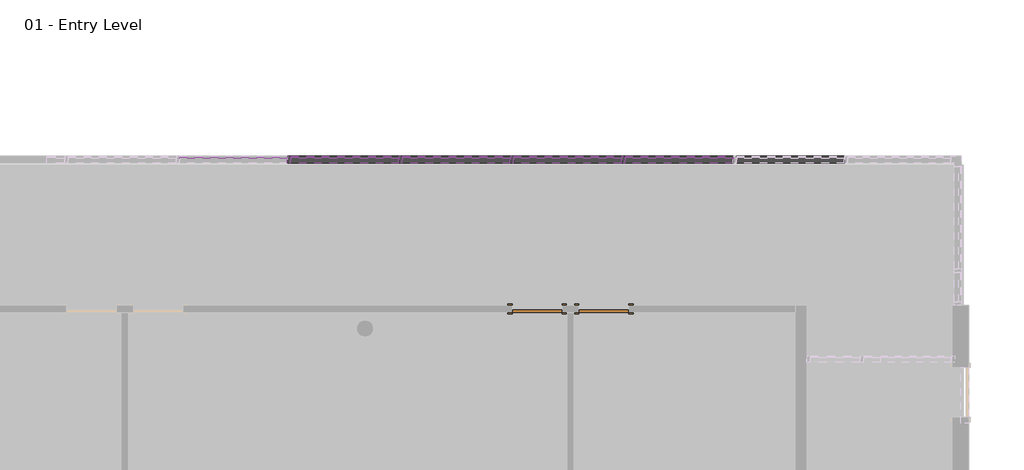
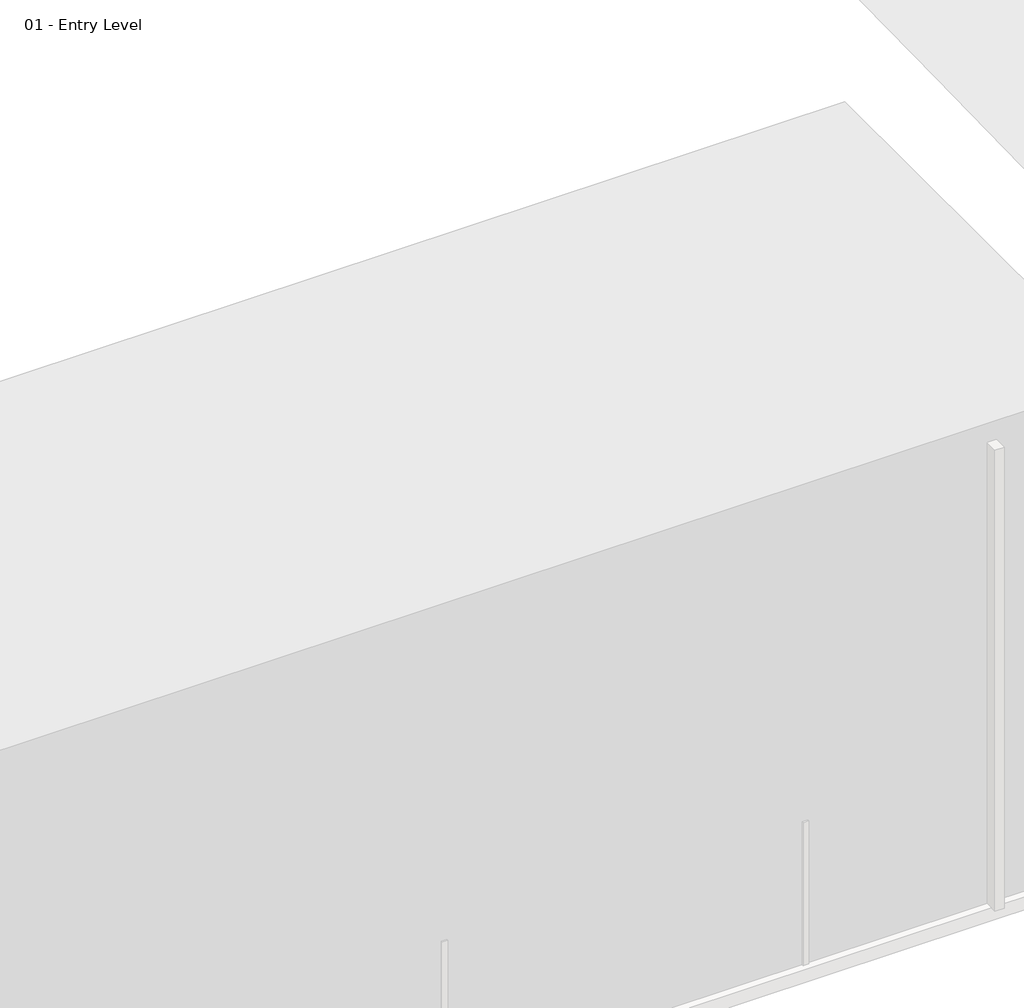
# One storey, part 21 of 34: 85 members, 45 plates, 2 doors.
"""IFC4 building model written with IfcOpenShell, lengths in millimetres."""

from ifc_helpers import new_model, si_unit, origin, place, context, project, spatial, transform, mapped, element, save
from components import door_a1797ceb, door_a3eb833a, member_2b49869a, member_391b434c, member_9e90ae50, system_panel_glazed_1b9d6098, system_panel_glazed_70da479d

model = new_model("IFC4")

# Units and contexts
model_context = context("Model", 3, world=origin())
ifc_project = project(units=[si_unit("LENGTHUNIT", "METRE", prefix="MILLI")], contexts=[model_context])

# Site, building, storey
site = spatial("IfcSite", under=ifc_project)
building = spatial("IfcBuilding", under=site)
storey = spatial("IfcBuildingStorey", under=building, Name="01 - Entry Level", Elevation=0.0)

# Doors
placement = place(None, origin())
door_shape = door_a1797ceb(model_context)
element("IfcDoor", 1, ObjectType="Single-Flush : 36\" x 84\"", at=placement, inside=storey, context=model_context, shape_type="MappedRepresentation", body=[
    mapped(door_shape, transform((59652.8207476, 8270.8, 0.0), x_axis=(-1.0, 0.0, 0.0), y_axis=(0.0, -1.0, 0.0), z_axis=(0.0, 0.0, 1.0))),
])
door_2_shape = door_a3eb833a(model_context)
element("IfcDoor", 2, ObjectType="Single-Flush : 36\" x 84\"", at=placement, inside=storey, context=model_context, shape_type="MappedRepresentation", body=[
    mapped(door_2_shape, transform((58433.6207476, 8270.8, 0.0), x_axis=(1.0, 0.0, 0.0), y_axis=(0.0, 1.0, 0.0), z_axis=(0.0, 0.0, 1.0))),
])

# Members
member_shape = member_2b49869a(model_context)
element("IfcMember", 3, ObjectType="Rectangular Mullion : 2.5\" x 5\" rectangular", at=placement, inside=storey, context=model_context, shape_type="MappedRepresentation", body=[
    mapped(member_shape, transform((60008.4207476, 11001.3, 9753.6), x_axis=(-1.0, 0.0, 0.0), y_axis=(0.0, 1.0, 0.0), z_axis=(0.0, 0.0, -1.0))),
])
element("IfcMember", 4, ObjectType="Rectangular Mullion : 2.5\" x 5\" rectangular", at=placement, inside=storey, context=model_context, shape_type="MappedRepresentation", body=[
    mapped(member_shape, transform((57976.4207476, 11001.3, 9753.6), x_axis=(-1.0, 0.0, 0.0), y_axis=(0.0, 1.0, 0.0), z_axis=(0.0, 0.0, -1.0))),
])
element("IfcMember", 5, ObjectType="Rectangular Mullion : 2.5\" x 5\" rectangular", at=placement, inside=storey, context=model_context, shape_type="MappedRepresentation", body=[
    mapped(member_shape, transform((55944.4207476, 11001.3, 9753.6), x_axis=(-1.0, 0.0, 0.0), y_axis=(0.0, 1.0, 0.0), z_axis=(0.0, 0.0, -1.0))),
])
element("IfcMember", 6, ObjectType="Rectangular Mullion : 2.5\" x 5\" rectangular", at=placement, inside=storey, context=model_context, shape_type="MappedRepresentation", body=[
    mapped(member_shape, transform((53912.4207476, 11001.3, 9753.6), x_axis=(-1.0, 0.0, 0.0), y_axis=(0.0, 1.0, 0.0), z_axis=(0.0, 0.0, -1.0))),
])
member_2_shape = member_391b434c(model_context)
element("IfcMember", 7, ObjectType="Rectangular Mullion : 2.5\" x 5\" rectangular", at=placement, inside=storey, context=model_context, shape_type="MappedRepresentation", body=[
    mapped(member_2_shape, transform((62072.1707476, 11001.3, 10972.8), x_axis=(0.0, 0.0, 1.0), y_axis=(0.0, 1.0, 0.0), z_axis=(-1.0, 0.0, 0.0))),
])
element("IfcMember", 8, ObjectType="Rectangular Mullion : 2.5\" x 5\" rectangular", at=placement, inside=storey, context=model_context, shape_type="MappedRepresentation", body=[
    mapped(member_2_shape, transform((60040.1707476, 11001.3, 10972.8), x_axis=(0.0, 0.0, 1.0), y_axis=(0.0, 1.0, 0.0), z_axis=(-1.0, 0.0, 0.0))),
])
element("IfcMember", 9, ObjectType="Rectangular Mullion : 2.5\" x 5\" rectangular", at=placement, inside=storey, context=model_context, shape_type="MappedRepresentation", body=[
    mapped(member_2_shape, transform((58008.1707476, 11001.3, 10972.8), x_axis=(0.0, 0.0, 1.0), y_axis=(0.0, 1.0, 0.0), z_axis=(-1.0, 0.0, 0.0))),
])
element("IfcMember", 10, ObjectType="Rectangular Mullion : 2.5\" x 5\" rectangular", at=placement, inside=storey, context=model_context, shape_type="MappedRepresentation", body=[
    mapped(member_2_shape, transform((55976.1707476, 11001.3, 10972.8), x_axis=(0.0, 0.0, 1.0), y_axis=(0.0, 1.0, 0.0), z_axis=(-1.0, 0.0, 0.0))),
])
element("IfcMember", 11, ObjectType="Rectangular Mullion : 2.5\" x 5\" rectangular", at=placement, inside=storey, context=model_context, shape_type="MappedRepresentation", body=[
    mapped(member_2_shape, transform((53944.1707476, 11001.3, 10972.8), x_axis=(0.0, 0.0, 1.0), y_axis=(0.0, 1.0, 0.0), z_axis=(-1.0, 0.0, 0.0))),
])
element("IfcMember", 12, ObjectType="Rectangular Mullion : 2.5\" x 5\" rectangular", at=placement, inside=storey, context=model_context, shape_type="MappedRepresentation", body=[
    mapped(member_2_shape, transform((62008.6707476, 11001.3, 0.0), x_axis=(0.0, 0.0, -1.0), y_axis=(0.0, 1.0, 0.0), z_axis=(1.0, 0.0, 0.0))),
])
element("IfcMember", 13, ObjectType="Rectangular Mullion : 2.5\" x 5\" rectangular", at=placement, inside=storey, context=model_context, shape_type="MappedRepresentation", body=[
    mapped(member_2_shape, transform((59976.6707476, 11001.3, 0.0), x_axis=(0.0, 0.0, -1.0), y_axis=(0.0, 1.0, 0.0), z_axis=(1.0, 0.0, 0.0))),
])
element("IfcMember", 14, ObjectType="Rectangular Mullion : 2.5\" x 5\" rectangular", at=placement, inside=storey, context=model_context, shape_type="MappedRepresentation", body=[
    mapped(member_2_shape, transform((57944.6707476, 11001.3, 0.0), x_axis=(0.0, 0.0, -1.0), y_axis=(0.0, 1.0, 0.0), z_axis=(1.0, 0.0, 0.0))),
])
element("IfcMember", 15, ObjectType="Rectangular Mullion : 2.5\" x 5\" rectangular", at=placement, inside=storey, context=model_context, shape_type="MappedRepresentation", body=[
    mapped(member_2_shape, transform((55912.6707476, 11001.3, 0.0), x_axis=(0.0, 0.0, -1.0), y_axis=(0.0, 1.0, 0.0), z_axis=(1.0, 0.0, 0.0))),
])
element("IfcMember", 16, ObjectType="Rectangular Mullion : 2.5\" x 5\" rectangular", at=placement, inside=storey, context=model_context, shape_type="MappedRepresentation", body=[
    mapped(member_2_shape, transform((53880.6707476, 11001.3, 0.0), x_axis=(0.0, 0.0, -1.0), y_axis=(0.0, 1.0, 0.0), z_axis=(1.0, 0.0, 0.0))),
])
member_3_shape = member_9e90ae50(model_context)
element("IfcMember", 17, ObjectType="Rectangular Mullion : 2.5\" x 5\" rectangular", at=placement, inside=storey, context=model_context, shape_type="MappedRepresentation", body=[
    mapped(member_3_shape, transform((62072.1707476, 11001.3, 1219.2), x_axis=(0.0, 0.0, 1.0), y_axis=(0.0, 1.0, 0.0), z_axis=(-1.0, 0.0, 0.0))),
])
element("IfcMember", 18, ObjectType="Rectangular Mullion : 2.5\" x 5\" rectangular", at=placement, inside=storey, context=model_context, shape_type="MappedRepresentation", body=[
    mapped(member_3_shape, transform((60040.1707476, 11001.3, 1219.2), x_axis=(0.0, 0.0, 1.0), y_axis=(0.0, 1.0, 0.0), z_axis=(-1.0, 0.0, 0.0))),
])
element("IfcMember", 19, ObjectType="Rectangular Mullion : 2.5\" x 5\" rectangular", at=placement, inside=storey, context=model_context, shape_type="MappedRepresentation", body=[
    mapped(member_3_shape, transform((58008.1707476, 11001.3, 1219.2), x_axis=(0.0, 0.0, 1.0), y_axis=(0.0, 1.0, 0.0), z_axis=(-1.0, 0.0, 0.0))),
])
element("IfcMember", 20, ObjectType="Rectangular Mullion : 2.5\" x 5\" rectangular", at=placement, inside=storey, context=model_context, shape_type="MappedRepresentation", body=[
    mapped(member_3_shape, transform((55976.1707476, 11001.3, 1219.2), x_axis=(0.0, 0.0, 1.0), y_axis=(0.0, 1.0, 0.0), z_axis=(-1.0, 0.0, 0.0))),
])
element("IfcMember", 21, ObjectType="Rectangular Mullion : 2.5\" x 5\" rectangular", at=placement, inside=storey, context=model_context, shape_type="MappedRepresentation", body=[
    mapped(member_3_shape, transform((53944.1707476, 11001.3, 1219.2), x_axis=(0.0, 0.0, 1.0), y_axis=(0.0, 1.0, 0.0), z_axis=(-1.0, 0.0, 0.0))),
])
element("IfcMember", 22, ObjectType="Rectangular Mullion : 2.5\" x 5\" rectangular", at=placement, inside=storey, context=model_context, shape_type="MappedRepresentation", body=[
    mapped(member_3_shape, transform((62072.1707476, 11001.3, 2438.4), x_axis=(0.0, 0.0, 1.0), y_axis=(0.0, 1.0, 0.0), z_axis=(-1.0, 0.0, 0.0))),
])
element("IfcMember", 23, ObjectType="Rectangular Mullion : 2.5\" x 5\" rectangular", at=placement, inside=storey, context=model_context, shape_type="MappedRepresentation", body=[
    mapped(member_3_shape, transform((60040.1707476, 11001.3, 2438.4), x_axis=(0.0, 0.0, 1.0), y_axis=(0.0, 1.0, 0.0), z_axis=(-1.0, 0.0, 0.0))),
])
element("IfcMember", 24, ObjectType="Rectangular Mullion : 2.5\" x 5\" rectangular", at=placement, inside=storey, context=model_context, shape_type="MappedRepresentation", body=[
    mapped(member_3_shape, transform((58008.1707476, 11001.3, 2438.4), x_axis=(0.0, 0.0, 1.0), y_axis=(0.0, 1.0, 0.0), z_axis=(-1.0, 0.0, 0.0))),
])
element("IfcMember", 25, ObjectType="Rectangular Mullion : 2.5\" x 5\" rectangular", at=placement, inside=storey, context=model_context, shape_type="MappedRepresentation", body=[
    mapped(member_3_shape, transform((55976.1707476, 11001.3, 2438.4), x_axis=(0.0, 0.0, 1.0), y_axis=(0.0, 1.0, 0.0), z_axis=(-1.0, 0.0, 0.0))),
])
element("IfcMember", 26, ObjectType="Rectangular Mullion : 2.5\" x 5\" rectangular", at=placement, inside=storey, context=model_context, shape_type="MappedRepresentation", body=[
    mapped(member_3_shape, transform((53944.1707476, 11001.3, 2438.4), x_axis=(0.0, 0.0, 1.0), y_axis=(0.0, 1.0, 0.0), z_axis=(-1.0, 0.0, 0.0))),
])
element("IfcMember", 27, ObjectType="Rectangular Mullion : 2.5\" x 5\" rectangular", at=placement, inside=storey, context=model_context, shape_type="MappedRepresentation", body=[
    mapped(member_3_shape, transform((62072.1707476, 11001.3, 3657.6), x_axis=(0.0, 0.0, 1.0), y_axis=(0.0, 1.0, 0.0), z_axis=(-1.0, 0.0, 0.0))),
])
element("IfcMember", 28, ObjectType="Rectangular Mullion : 2.5\" x 5\" rectangular", at=placement, inside=storey, context=model_context, shape_type="MappedRepresentation", body=[
    mapped(member_3_shape, transform((60040.1707476, 11001.3, 3657.6), x_axis=(0.0, 0.0, 1.0), y_axis=(0.0, 1.0, 0.0), z_axis=(-1.0, 0.0, 0.0))),
])
element("IfcMember", 29, ObjectType="Rectangular Mullion : 2.5\" x 5\" rectangular", at=placement, inside=storey, context=model_context, shape_type="MappedRepresentation", body=[
    mapped(member_3_shape, transform((58008.1707476, 11001.3, 3657.6), x_axis=(0.0, 0.0, 1.0), y_axis=(0.0, 1.0, 0.0), z_axis=(-1.0, 0.0, 0.0))),
])
element("IfcMember", 30, ObjectType="Rectangular Mullion : 2.5\" x 5\" rectangular", at=placement, inside=storey, context=model_context, shape_type="MappedRepresentation", body=[
    mapped(member_3_shape, transform((55976.1707476, 11001.3, 3657.6), x_axis=(0.0, 0.0, 1.0), y_axis=(0.0, 1.0, 0.0), z_axis=(-1.0, 0.0, 0.0))),
])
element("IfcMember", 31, ObjectType="Rectangular Mullion : 2.5\" x 5\" rectangular", at=placement, inside=storey, context=model_context, shape_type="MappedRepresentation", body=[
    mapped(member_3_shape, transform((53944.1707476, 11001.3, 3657.6), x_axis=(0.0, 0.0, 1.0), y_axis=(0.0, 1.0, 0.0), z_axis=(-1.0, 0.0, 0.0))),
])
element("IfcMember", 32, ObjectType="Rectangular Mullion : 2.5\" x 5\" rectangular", at=placement, inside=storey, context=model_context, shape_type="MappedRepresentation", body=[
    mapped(member_3_shape, transform((62072.1707476, 11001.3, 4876.8), x_axis=(0.0, 0.0, 1.0), y_axis=(0.0, 1.0, 0.0), z_axis=(-1.0, 0.0, 0.0))),
])
element("IfcMember", 33, ObjectType="Rectangular Mullion : 2.5\" x 5\" rectangular", at=placement, inside=storey, context=model_context, shape_type="MappedRepresentation", body=[
    mapped(member_3_shape, transform((60040.1707476, 11001.3, 4876.8), x_axis=(0.0, 0.0, 1.0), y_axis=(0.0, 1.0, 0.0), z_axis=(-1.0, 0.0, 0.0))),
])
element("IfcMember", 34, ObjectType="Rectangular Mullion : 2.5\" x 5\" rectangular", at=placement, inside=storey, context=model_context, shape_type="MappedRepresentation", body=[
    mapped(member_3_shape, transform((58008.1707476, 11001.3, 4876.8), x_axis=(0.0, 0.0, 1.0), y_axis=(0.0, 1.0, 0.0), z_axis=(-1.0, 0.0, 0.0))),
])
element("IfcMember", 35, ObjectType="Rectangular Mullion : 2.5\" x 5\" rectangular", at=placement, inside=storey, context=model_context, shape_type="MappedRepresentation", body=[
    mapped(member_3_shape, transform((55976.1707476, 11001.3, 4876.8), x_axis=(0.0, 0.0, 1.0), y_axis=(0.0, 1.0, 0.0), z_axis=(-1.0, 0.0, 0.0))),
])
element("IfcMember", 36, ObjectType="Rectangular Mullion : 2.5\" x 5\" rectangular", at=placement, inside=storey, context=model_context, shape_type="MappedRepresentation", body=[
    mapped(member_3_shape, transform((53944.1707476, 11001.3, 4876.8), x_axis=(0.0, 0.0, 1.0), y_axis=(0.0, 1.0, 0.0), z_axis=(-1.0, 0.0, 0.0))),
])
element("IfcMember", 37, ObjectType="Rectangular Mullion : 2.5\" x 5\" rectangular", at=placement, inside=storey, context=model_context, shape_type="MappedRepresentation", body=[
    mapped(member_3_shape, transform((62072.1707476, 11001.3, 6096.0), x_axis=(0.0, 0.0, 1.0), y_axis=(0.0, 1.0, 0.0), z_axis=(-1.0, 0.0, 0.0))),
])
element("IfcMember", 38, ObjectType="Rectangular Mullion : 2.5\" x 5\" rectangular", at=placement, inside=storey, context=model_context, shape_type="MappedRepresentation", body=[
    mapped(member_3_shape, transform((60040.1707476, 11001.3, 6096.0), x_axis=(0.0, 0.0, 1.0), y_axis=(0.0, 1.0, 0.0), z_axis=(-1.0, 0.0, 0.0))),
])
element("IfcMember", 39, ObjectType="Rectangular Mullion : 2.5\" x 5\" rectangular", at=placement, inside=storey, context=model_context, shape_type="MappedRepresentation", body=[
    mapped(member_3_shape, transform((58008.1707476, 11001.3, 6096.0), x_axis=(0.0, 0.0, 1.0), y_axis=(0.0, 1.0, 0.0), z_axis=(-1.0, 0.0, 0.0))),
])
element("IfcMember", 40, ObjectType="Rectangular Mullion : 2.5\" x 5\" rectangular", at=placement, inside=storey, context=model_context, shape_type="MappedRepresentation", body=[
    mapped(member_3_shape, transform((55976.1707476, 11001.3, 6096.0), x_axis=(0.0, 0.0, 1.0), y_axis=(0.0, 1.0, 0.0), z_axis=(-1.0, 0.0, 0.0))),
])
element("IfcMember", 41, ObjectType="Rectangular Mullion : 2.5\" x 5\" rectangular", at=placement, inside=storey, context=model_context, shape_type="MappedRepresentation", body=[
    mapped(member_3_shape, transform((53944.1707476, 11001.3, 6096.0), x_axis=(0.0, 0.0, 1.0), y_axis=(0.0, 1.0, 0.0), z_axis=(-1.0, 0.0, 0.0))),
])
element("IfcMember", 42, ObjectType="Rectangular Mullion : 2.5\" x 5\" rectangular", at=placement, inside=storey, context=model_context, shape_type="MappedRepresentation", body=[
    mapped(member_3_shape, transform((62072.1707476, 11001.3, 7315.2), x_axis=(0.0, 0.0, 1.0), y_axis=(0.0, 1.0, 0.0), z_axis=(-1.0, 0.0, 0.0))),
])
element("IfcMember", 43, ObjectType="Rectangular Mullion : 2.5\" x 5\" rectangular", at=placement, inside=storey, context=model_context, shape_type="MappedRepresentation", body=[
    mapped(member_3_shape, transform((60040.1707476, 11001.3, 7315.2), x_axis=(0.0, 0.0, 1.0), y_axis=(0.0, 1.0, 0.0), z_axis=(-1.0, 0.0, 0.0))),
])
element("IfcMember", 44, ObjectType="Rectangular Mullion : 2.5\" x 5\" rectangular", at=placement, inside=storey, context=model_context, shape_type="MappedRepresentation", body=[
    mapped(member_3_shape, transform((58008.1707476, 11001.3, 7315.2), x_axis=(0.0, 0.0, 1.0), y_axis=(0.0, 1.0, 0.0), z_axis=(-1.0, 0.0, 0.0))),
])
element("IfcMember", 45, ObjectType="Rectangular Mullion : 2.5\" x 5\" rectangular", at=placement, inside=storey, context=model_context, shape_type="MappedRepresentation", body=[
    mapped(member_3_shape, transform((55976.1707476, 11001.3, 7315.2), x_axis=(0.0, 0.0, 1.0), y_axis=(0.0, 1.0, 0.0), z_axis=(-1.0, 0.0, 0.0))),
])
element("IfcMember", 46, ObjectType="Rectangular Mullion : 2.5\" x 5\" rectangular", at=placement, inside=storey, context=model_context, shape_type="MappedRepresentation", body=[
    mapped(member_3_shape, transform((53944.1707476, 11001.3, 7315.2), x_axis=(0.0, 0.0, 1.0), y_axis=(0.0, 1.0, 0.0), z_axis=(-1.0, 0.0, 0.0))),
])
element("IfcMember", 47, ObjectType="Rectangular Mullion : 2.5\" x 5\" rectangular", at=placement, inside=storey, context=model_context, shape_type="MappedRepresentation", body=[
    mapped(member_3_shape, transform((62072.1707476, 11001.3, 8534.4), x_axis=(0.0, 0.0, 1.0), y_axis=(0.0, 1.0, 0.0), z_axis=(-1.0, 0.0, 0.0))),
])
element("IfcMember", 48, ObjectType="Rectangular Mullion : 2.5\" x 5\" rectangular", at=placement, inside=storey, context=model_context, shape_type="MappedRepresentation", body=[
    mapped(member_3_shape, transform((60040.1707476, 11001.3, 8534.4), x_axis=(0.0, 0.0, 1.0), y_axis=(0.0, 1.0, 0.0), z_axis=(-1.0, 0.0, 0.0))),
])
element("IfcMember", 49, ObjectType="Rectangular Mullion : 2.5\" x 5\" rectangular", at=placement, inside=storey, context=model_context, shape_type="MappedRepresentation", body=[
    mapped(member_3_shape, transform((58008.1707476, 11001.3, 8534.4), x_axis=(0.0, 0.0, 1.0), y_axis=(0.0, 1.0, 0.0), z_axis=(-1.0, 0.0, 0.0))),
])
element("IfcMember", 50, ObjectType="Rectangular Mullion : 2.5\" x 5\" rectangular", at=placement, inside=storey, context=model_context, shape_type="MappedRepresentation", body=[
    mapped(member_3_shape, transform((55976.1707476, 11001.3, 8534.4), x_axis=(0.0, 0.0, 1.0), y_axis=(0.0, 1.0, 0.0), z_axis=(-1.0, 0.0, 0.0))),
])
element("IfcMember", 51, ObjectType="Rectangular Mullion : 2.5\" x 5\" rectangular", at=placement, inside=storey, context=model_context, shape_type="MappedRepresentation", body=[
    mapped(member_3_shape, transform((53944.1707476, 11001.3, 8534.4), x_axis=(0.0, 0.0, 1.0), y_axis=(0.0, 1.0, 0.0), z_axis=(-1.0, 0.0, 0.0))),
])
element("IfcMember", 52, ObjectType="Rectangular Mullion : 2.5\" x 5\" rectangular", at=placement, inside=storey, context=model_context, shape_type="MappedRepresentation", body=[
    mapped(member_3_shape, transform((60040.1707476, 11001.3, 9753.6), x_axis=(0.0, 0.0, 1.0), y_axis=(0.0, 1.0, 0.0), z_axis=(-1.0, 0.0, 0.0))),
])
element("IfcMember", 53, ObjectType="Rectangular Mullion : 2.5\" x 5\" rectangular", at=placement, inside=storey, context=model_context, shape_type="MappedRepresentation", body=[
    mapped(member_3_shape, transform((58008.1707476, 11001.3, 9753.6), x_axis=(0.0, 0.0, 1.0), y_axis=(0.0, 1.0, 0.0), z_axis=(-1.0, 0.0, 0.0))),
])
element("IfcMember", 54, ObjectType="Rectangular Mullion : 2.5\" x 5\" rectangular", at=placement, inside=storey, context=model_context, shape_type="MappedRepresentation", body=[
    mapped(member_3_shape, transform((55976.1707476, 11001.3, 9753.6), x_axis=(0.0, 0.0, 1.0), y_axis=(0.0, 1.0, 0.0), z_axis=(-1.0, 0.0, 0.0))),
])
element("IfcMember", 55, ObjectType="Rectangular Mullion : 2.5\" x 5\" rectangular", at=placement, inside=storey, context=model_context, shape_type="MappedRepresentation", body=[
    mapped(member_3_shape, transform((53944.1707476, 11001.3, 9753.6), x_axis=(0.0, 0.0, 1.0), y_axis=(0.0, 1.0, 0.0), z_axis=(-1.0, 0.0, 0.0))),
])
element("IfcMember", 56, ObjectType="Rectangular Mullion : 2.5\" x 5\" rectangular", at=placement, inside=storey, context=model_context, shape_type="MappedRepresentation", body=[
    mapped(member_shape, transform((60008.4207476, 11001.3, 0.0), x_axis=(-1.0, 0.0, 0.0), y_axis=(0.0, 1.0, 0.0), z_axis=(0.0, 0.0, -1.0))),
])
element("IfcMember", 57, ObjectType="Rectangular Mullion : 2.5\" x 5\" rectangular", at=placement, inside=storey, context=model_context, shape_type="MappedRepresentation", body=[
    mapped(member_shape, transform((57976.4207476, 11001.3, 0.0), x_axis=(-1.0, 0.0, 0.0), y_axis=(0.0, 1.0, 0.0), z_axis=(0.0, 0.0, -1.0))),
])
element("IfcMember", 58, ObjectType="Rectangular Mullion : 2.5\" x 5\" rectangular", at=placement, inside=storey, context=model_context, shape_type="MappedRepresentation", body=[
    mapped(member_shape, transform((55944.4207476, 11001.3, 0.0), x_axis=(-1.0, 0.0, 0.0), y_axis=(0.0, 1.0, 0.0), z_axis=(0.0, 0.0, -1.0))),
])
element("IfcMember", 59, ObjectType="Rectangular Mullion : 2.5\" x 5\" rectangular", at=placement, inside=storey, context=model_context, shape_type="MappedRepresentation", body=[
    mapped(member_shape, transform((53912.4207476, 11001.3, 0.0), x_axis=(-1.0, 0.0, 0.0), y_axis=(0.0, 1.0, 0.0), z_axis=(0.0, 0.0, -1.0))),
])
element("IfcMember", 60, ObjectType="Rectangular Mullion : 2.5\" x 5\" rectangular", at=placement, inside=storey, context=model_context, shape_type="MappedRepresentation", body=[
    mapped(member_shape, transform((60008.4207476, 11001.3, 1219.2), x_axis=(-1.0, 0.0, 0.0), y_axis=(0.0, 1.0, 0.0), z_axis=(0.0, 0.0, -1.0))),
])
element("IfcMember", 61, ObjectType="Rectangular Mullion : 2.5\" x 5\" rectangular", at=placement, inside=storey, context=model_context, shape_type="MappedRepresentation", body=[
    mapped(member_shape, transform((57976.4207476, 11001.3, 1219.2), x_axis=(-1.0, 0.0, 0.0), y_axis=(0.0, 1.0, 0.0), z_axis=(0.0, 0.0, -1.0))),
])
element("IfcMember", 62, ObjectType="Rectangular Mullion : 2.5\" x 5\" rectangular", at=placement, inside=storey, context=model_context, shape_type="MappedRepresentation", body=[
    mapped(member_shape, transform((55944.4207476, 11001.3, 1219.2), x_axis=(-1.0, 0.0, 0.0), y_axis=(0.0, 1.0, 0.0), z_axis=(0.0, 0.0, -1.0))),
])
element("IfcMember", 63, ObjectType="Rectangular Mullion : 2.5\" x 5\" rectangular", at=placement, inside=storey, context=model_context, shape_type="MappedRepresentation", body=[
    mapped(member_shape, transform((53912.4207476, 11001.3, 1219.2), x_axis=(-1.0, 0.0, 0.0), y_axis=(0.0, 1.0, 0.0), z_axis=(0.0, 0.0, -1.0))),
])
element("IfcMember", 64, ObjectType="Rectangular Mullion : 2.5\" x 5\" rectangular", at=placement, inside=storey, context=model_context, shape_type="MappedRepresentation", body=[
    mapped(member_shape, transform((60008.4207476, 11001.3, 2438.4), x_axis=(-1.0, 0.0, 0.0), y_axis=(0.0, 1.0, 0.0), z_axis=(0.0, 0.0, -1.0))),
])
element("IfcMember", 65, ObjectType="Rectangular Mullion : 2.5\" x 5\" rectangular", at=placement, inside=storey, context=model_context, shape_type="MappedRepresentation", body=[
    mapped(member_shape, transform((57976.4207476, 11001.3, 2438.4), x_axis=(-1.0, 0.0, 0.0), y_axis=(0.0, 1.0, 0.0), z_axis=(0.0, 0.0, -1.0))),
])
element("IfcMember", 66, ObjectType="Rectangular Mullion : 2.5\" x 5\" rectangular", at=placement, inside=storey, context=model_context, shape_type="MappedRepresentation", body=[
    mapped(member_shape, transform((55944.4207476, 11001.3, 2438.4), x_axis=(-1.0, 0.0, 0.0), y_axis=(0.0, 1.0, 0.0), z_axis=(0.0, 0.0, -1.0))),
])
element("IfcMember", 67, ObjectType="Rectangular Mullion : 2.5\" x 5\" rectangular", at=placement, inside=storey, context=model_context, shape_type="MappedRepresentation", body=[
    mapped(member_shape, transform((53912.4207476, 11001.3, 2438.4), x_axis=(-1.0, 0.0, 0.0), y_axis=(0.0, 1.0, 0.0), z_axis=(0.0, 0.0, -1.0))),
])
element("IfcMember", 68, ObjectType="Rectangular Mullion : 2.5\" x 5\" rectangular", at=placement, inside=storey, context=model_context, shape_type="MappedRepresentation", body=[
    mapped(member_shape, transform((60008.4207476, 11001.3, 3657.6), x_axis=(-1.0, 0.0, 0.0), y_axis=(0.0, 1.0, 0.0), z_axis=(0.0, 0.0, -1.0))),
])
element("IfcMember", 69, ObjectType="Rectangular Mullion : 2.5\" x 5\" rectangular", at=placement, inside=storey, context=model_context, shape_type="MappedRepresentation", body=[
    mapped(member_shape, transform((57976.4207476, 11001.3, 3657.6), x_axis=(-1.0, 0.0, 0.0), y_axis=(0.0, 1.0, 0.0), z_axis=(0.0, 0.0, -1.0))),
])
element("IfcMember", 70, ObjectType="Rectangular Mullion : 2.5\" x 5\" rectangular", at=placement, inside=storey, context=model_context, shape_type="MappedRepresentation", body=[
    mapped(member_shape, transform((55944.4207476, 11001.3, 3657.6), x_axis=(-1.0, 0.0, 0.0), y_axis=(0.0, 1.0, 0.0), z_axis=(0.0, 0.0, -1.0))),
])
element("IfcMember", 71, ObjectType="Rectangular Mullion : 2.5\" x 5\" rectangular", at=placement, inside=storey, context=model_context, shape_type="MappedRepresentation", body=[
    mapped(member_shape, transform((53912.4207476, 11001.3, 3657.6), x_axis=(-1.0, 0.0, 0.0), y_axis=(0.0, 1.0, 0.0), z_axis=(0.0, 0.0, -1.0))),
])
element("IfcMember", 72, ObjectType="Rectangular Mullion : 2.5\" x 5\" rectangular", at=placement, inside=storey, context=model_context, shape_type="MappedRepresentation", body=[
    mapped(member_shape, transform((60008.4207476, 11001.3, 4876.8), x_axis=(-1.0, 0.0, 0.0), y_axis=(0.0, 1.0, 0.0), z_axis=(0.0, 0.0, -1.0))),
])
element("IfcMember", 73, ObjectType="Rectangular Mullion : 2.5\" x 5\" rectangular", at=placement, inside=storey, context=model_context, shape_type="MappedRepresentation", body=[
    mapped(member_shape, transform((57976.4207476, 11001.3, 4876.8), x_axis=(-1.0, 0.0, 0.0), y_axis=(0.0, 1.0, 0.0), z_axis=(0.0, 0.0, -1.0))),
])
element("IfcMember", 74, ObjectType="Rectangular Mullion : 2.5\" x 5\" rectangular", at=placement, inside=storey, context=model_context, shape_type="MappedRepresentation", body=[
    mapped(member_shape, transform((55944.4207476, 11001.3, 4876.8), x_axis=(-1.0, 0.0, 0.0), y_axis=(0.0, 1.0, 0.0), z_axis=(0.0, 0.0, -1.0))),
])
element("IfcMember", 75, ObjectType="Rectangular Mullion : 2.5\" x 5\" rectangular", at=placement, inside=storey, context=model_context, shape_type="MappedRepresentation", body=[
    mapped(member_shape, transform((53912.4207476, 11001.3, 4876.8), x_axis=(-1.0, 0.0, 0.0), y_axis=(0.0, 1.0, 0.0), z_axis=(0.0, 0.0, -1.0))),
])
element("IfcMember", 76, ObjectType="Rectangular Mullion : 2.5\" x 5\" rectangular", at=placement, inside=storey, context=model_context, shape_type="MappedRepresentation", body=[
    mapped(member_shape, transform((60008.4207476, 11001.3, 6096.0), x_axis=(-1.0, 0.0, 0.0), y_axis=(0.0, 1.0, 0.0), z_axis=(0.0, 0.0, -1.0))),
])
element("IfcMember", 77, ObjectType="Rectangular Mullion : 2.5\" x 5\" rectangular", at=placement, inside=storey, context=model_context, shape_type="MappedRepresentation", body=[
    mapped(member_shape, transform((57976.4207476, 11001.3, 6096.0), x_axis=(-1.0, 0.0, 0.0), y_axis=(0.0, 1.0, 0.0), z_axis=(0.0, 0.0, -1.0))),
])
element("IfcMember", 78, ObjectType="Rectangular Mullion : 2.5\" x 5\" rectangular", at=placement, inside=storey, context=model_context, shape_type="MappedRepresentation", body=[
    mapped(member_shape, transform((55944.4207476, 11001.3, 6096.0), x_axis=(-1.0, 0.0, 0.0), y_axis=(0.0, 1.0, 0.0), z_axis=(0.0, 0.0, -1.0))),
])
element("IfcMember", 79, ObjectType="Rectangular Mullion : 2.5\" x 5\" rectangular", at=placement, inside=storey, context=model_context, shape_type="MappedRepresentation", body=[
    mapped(member_shape, transform((53912.4207476, 11001.3, 6096.0), x_axis=(-1.0, 0.0, 0.0), y_axis=(0.0, 1.0, 0.0), z_axis=(0.0, 0.0, -1.0))),
])
element("IfcMember", 80, ObjectType="Rectangular Mullion : 2.5\" x 5\" rectangular", at=placement, inside=storey, context=model_context, shape_type="MappedRepresentation", body=[
    mapped(member_shape, transform((60008.4207476, 11001.3, 7315.2), x_axis=(-1.0, 0.0, 0.0), y_axis=(0.0, 1.0, 0.0), z_axis=(0.0, 0.0, -1.0))),
])
element("IfcMember", 81, ObjectType="Rectangular Mullion : 2.5\" x 5\" rectangular", at=placement, inside=storey, context=model_context, shape_type="MappedRepresentation", body=[
    mapped(member_shape, transform((57976.4207476, 11001.3, 7315.2), x_axis=(-1.0, 0.0, 0.0), y_axis=(0.0, 1.0, 0.0), z_axis=(0.0, 0.0, -1.0))),
])
element("IfcMember", 82, ObjectType="Rectangular Mullion : 2.5\" x 5\" rectangular", at=placement, inside=storey, context=model_context, shape_type="MappedRepresentation", body=[
    mapped(member_shape, transform((55944.4207476, 11001.3, 7315.2), x_axis=(-1.0, 0.0, 0.0), y_axis=(0.0, 1.0, 0.0), z_axis=(0.0, 0.0, -1.0))),
])
element("IfcMember", 83, ObjectType="Rectangular Mullion : 2.5\" x 5\" rectangular", at=placement, inside=storey, context=model_context, shape_type="MappedRepresentation", body=[
    mapped(member_shape, transform((53912.4207476, 11001.3, 7315.2), x_axis=(-1.0, 0.0, 0.0), y_axis=(0.0, 1.0, 0.0), z_axis=(0.0, 0.0, -1.0))),
])
element("IfcMember", 84, ObjectType="Rectangular Mullion : 2.5\" x 5\" rectangular", at=placement, inside=storey, context=model_context, shape_type="MappedRepresentation", body=[
    mapped(member_shape, transform((60008.4207476, 11001.3, 8534.4), x_axis=(-1.0, 0.0, 0.0), y_axis=(0.0, 1.0, 0.0), z_axis=(0.0, 0.0, -1.0))),
])
element("IfcMember", 85, ObjectType="Rectangular Mullion : 2.5\" x 5\" rectangular", at=placement, inside=storey, context=model_context, shape_type="MappedRepresentation", body=[
    mapped(member_shape, transform((57976.4207476, 11001.3, 8534.4), x_axis=(-1.0, 0.0, 0.0), y_axis=(0.0, 1.0, 0.0), z_axis=(0.0, 0.0, -1.0))),
])
element("IfcMember", 86, ObjectType="Rectangular Mullion : 2.5\" x 5\" rectangular", at=placement, inside=storey, context=model_context, shape_type="MappedRepresentation", body=[
    mapped(member_shape, transform((55944.4207476, 11001.3, 8534.4), x_axis=(-1.0, 0.0, 0.0), y_axis=(0.0, 1.0, 0.0), z_axis=(0.0, 0.0, -1.0))),
])
element("IfcMember", 87, ObjectType="Rectangular Mullion : 2.5\" x 5\" rectangular", at=placement, inside=storey, context=model_context, shape_type="MappedRepresentation", body=[
    mapped(member_shape, transform((53912.4207476, 11001.3, 8534.4), x_axis=(-1.0, 0.0, 0.0), y_axis=(0.0, 1.0, 0.0), z_axis=(0.0, 0.0, -1.0))),
])

# Plates
system_panel_glazed_shape = system_panel_glazed_1b9d6098(model_context)
element("IfcPlate", 88, ObjectType="System Panel : Glazed", at=placement, inside=storey, context=model_context, shape_type="MappedRepresentation", body=[
    mapped(system_panel_glazed_shape, transform((61024.4207476, 11001.3, 63.5), x_axis=(-1.0, 0.0, 0.0), y_axis=(0.0, -1.0, 0.0), z_axis=(0.0, 0.0, 1.0))),
])
element("IfcPlate", 89, ObjectType="System Panel : Glazed", at=placement, inside=storey, context=model_context, shape_type="MappedRepresentation", body=[
    mapped(system_panel_glazed_shape, transform((58992.4207476, 11001.3, 63.5), x_axis=(-1.0, 0.0, 0.0), y_axis=(0.0, -1.0, 0.0), z_axis=(0.0, 0.0, 1.0))),
])
element("IfcPlate", 90, ObjectType="System Panel : Glazed", at=placement, inside=storey, context=model_context, shape_type="MappedRepresentation", body=[
    mapped(system_panel_glazed_shape, transform((56960.4207476, 11001.3, 63.5), x_axis=(-1.0, 0.0, 0.0), y_axis=(0.0, -1.0, 0.0), z_axis=(0.0, 0.0, 1.0))),
])
element("IfcPlate", 91, ObjectType="System Panel : Glazed", at=placement, inside=storey, context=model_context, shape_type="MappedRepresentation", body=[
    mapped(system_panel_glazed_shape, transform((54928.4207476, 11001.3, 63.5), x_axis=(-1.0, 0.0, 0.0), y_axis=(0.0, -1.0, 0.0), z_axis=(0.0, 0.0, 1.0))),
])
element("IfcPlate", 92, ObjectType="System Panel : Glazed", at=placement, inside=storey, context=model_context, shape_type="MappedRepresentation", body=[
    mapped(system_panel_glazed_shape, transform((52896.4207476, 11001.3, 63.5), x_axis=(-1.0, 0.0, 0.0), y_axis=(0.0, -1.0, 0.0), z_axis=(0.0, 0.0, 1.0))),
])
element("IfcPlate", 93, ObjectType="System Panel : Glazed", at=placement, inside=storey, context=model_context, shape_type="MappedRepresentation", body=[
    mapped(system_panel_glazed_shape, transform((61024.4207476, 11001.3, 9785.35), x_axis=(-1.0, 0.0, 0.0), y_axis=(0.0, -1.0, 0.0), z_axis=(0.0, 0.0, 1.0))),
])
element("IfcPlate", 94, ObjectType="System Panel : Glazed", at=placement, inside=storey, context=model_context, shape_type="MappedRepresentation", body=[
    mapped(system_panel_glazed_shape, transform((58992.4207476, 11001.3, 9785.35), x_axis=(-1.0, 0.0, 0.0), y_axis=(0.0, -1.0, 0.0), z_axis=(0.0, 0.0, 1.0))),
])
element("IfcPlate", 95, ObjectType="System Panel : Glazed", at=placement, inside=storey, context=model_context, shape_type="MappedRepresentation", body=[
    mapped(system_panel_glazed_shape, transform((56960.4207476, 11001.3, 9785.35), x_axis=(-1.0, 0.0, 0.0), y_axis=(0.0, -1.0, 0.0), z_axis=(0.0, 0.0, 1.0))),
])
element("IfcPlate", 96, ObjectType="System Panel : Glazed", at=placement, inside=storey, context=model_context, shape_type="MappedRepresentation", body=[
    mapped(system_panel_glazed_shape, transform((54928.4207476, 11001.3, 9785.35), x_axis=(-1.0, 0.0, 0.0), y_axis=(0.0, -1.0, 0.0), z_axis=(0.0, 0.0, 1.0))),
])
element("IfcPlate", 97, ObjectType="System Panel : Glazed", at=placement, inside=storey, context=model_context, shape_type="MappedRepresentation", body=[
    mapped(system_panel_glazed_shape, transform((52896.4207476, 11001.3, 9785.35), x_axis=(-1.0, 0.0, 0.0), y_axis=(0.0, -1.0, 0.0), z_axis=(0.0, 0.0, 1.0))),
])
system_panel_glazed_2_shape = system_panel_glazed_70da479d(model_context)
element("IfcPlate", 98, ObjectType="System Panel : Glazed", at=placement, inside=storey, context=model_context, shape_type="MappedRepresentation", body=[
    mapped(system_panel_glazed_2_shape, transform((61024.4207476, 11001.3, 1250.95), x_axis=(-1.0, 0.0, 0.0), y_axis=(0.0, -1.0, 0.0), z_axis=(0.0, 0.0, 1.0))),
])
element("IfcPlate", 99, ObjectType="System Panel : Glazed", at=placement, inside=storey, context=model_context, shape_type="MappedRepresentation", body=[
    mapped(system_panel_glazed_2_shape, transform((58992.4207476, 11001.3, 1250.95), x_axis=(-1.0, 0.0, 0.0), y_axis=(0.0, -1.0, 0.0), z_axis=(0.0, 0.0, 1.0))),
])
element("IfcPlate", 100, ObjectType="System Panel : Glazed", at=placement, inside=storey, context=model_context, shape_type="MappedRepresentation", body=[
    mapped(system_panel_glazed_2_shape, transform((56960.4207476, 11001.3, 1250.95), x_axis=(-1.0, 0.0, 0.0), y_axis=(0.0, -1.0, 0.0), z_axis=(0.0, 0.0, 1.0))),
])
element("IfcPlate", 101, ObjectType="System Panel : Glazed", at=placement, inside=storey, context=model_context, shape_type="MappedRepresentation", body=[
    mapped(system_panel_glazed_2_shape, transform((54928.4207476, 11001.3, 1250.95), x_axis=(-1.0, 0.0, 0.0), y_axis=(0.0, -1.0, 0.0), z_axis=(0.0, 0.0, 1.0))),
])
element("IfcPlate", 102, ObjectType="System Panel : Glazed", at=placement, inside=storey, context=model_context, shape_type="MappedRepresentation", body=[
    mapped(system_panel_glazed_2_shape, transform((52896.4207476, 11001.3, 1250.95), x_axis=(-1.0, 0.0, 0.0), y_axis=(0.0, -1.0, 0.0), z_axis=(0.0, 0.0, 1.0))),
])
element("IfcPlate", 103, ObjectType="System Panel : Glazed", at=placement, inside=storey, context=model_context, shape_type="MappedRepresentation", body=[
    mapped(system_panel_glazed_2_shape, transform((61024.4207476, 11001.3, 2470.15), x_axis=(-1.0, 0.0, 0.0), y_axis=(0.0, -1.0, 0.0), z_axis=(0.0, 0.0, 1.0))),
])
element("IfcPlate", 104, ObjectType="System Panel : Glazed", at=placement, inside=storey, context=model_context, shape_type="MappedRepresentation", body=[
    mapped(system_panel_glazed_2_shape, transform((58992.4207476, 11001.3, 2470.15), x_axis=(-1.0, 0.0, 0.0), y_axis=(0.0, -1.0, 0.0), z_axis=(0.0, 0.0, 1.0))),
])
element("IfcPlate", 105, ObjectType="System Panel : Glazed", at=placement, inside=storey, context=model_context, shape_type="MappedRepresentation", body=[
    mapped(system_panel_glazed_2_shape, transform((56960.4207476, 11001.3, 2470.15), x_axis=(-1.0, 0.0, 0.0), y_axis=(0.0, -1.0, 0.0), z_axis=(0.0, 0.0, 1.0))),
])
element("IfcPlate", 106, ObjectType="System Panel : Glazed", at=placement, inside=storey, context=model_context, shape_type="MappedRepresentation", body=[
    mapped(system_panel_glazed_2_shape, transform((54928.4207476, 11001.3, 2470.15), x_axis=(-1.0, 0.0, 0.0), y_axis=(0.0, -1.0, 0.0), z_axis=(0.0, 0.0, 1.0))),
])
element("IfcPlate", 107, ObjectType="System Panel : Glazed", at=placement, inside=storey, context=model_context, shape_type="MappedRepresentation", body=[
    mapped(system_panel_glazed_2_shape, transform((52896.4207476, 11001.3, 2470.15), x_axis=(-1.0, 0.0, 0.0), y_axis=(0.0, -1.0, 0.0), z_axis=(0.0, 0.0, 1.0))),
])
element("IfcPlate", 108, ObjectType="System Panel : Glazed", at=placement, inside=storey, context=model_context, shape_type="MappedRepresentation", body=[
    mapped(system_panel_glazed_2_shape, transform((61024.4207476, 11001.3, 3689.35), x_axis=(-1.0, 0.0, 0.0), y_axis=(0.0, -1.0, 0.0), z_axis=(0.0, 0.0, 1.0))),
])
element("IfcPlate", 109, ObjectType="System Panel : Glazed", at=placement, inside=storey, context=model_context, shape_type="MappedRepresentation", body=[
    mapped(system_panel_glazed_2_shape, transform((58992.4207476, 11001.3, 3689.35), x_axis=(-1.0, 0.0, 0.0), y_axis=(0.0, -1.0, 0.0), z_axis=(0.0, 0.0, 1.0))),
])
element("IfcPlate", 110, ObjectType="System Panel : Glazed", at=placement, inside=storey, context=model_context, shape_type="MappedRepresentation", body=[
    mapped(system_panel_glazed_2_shape, transform((56960.4207476, 11001.3, 3689.35), x_axis=(-1.0, 0.0, 0.0), y_axis=(0.0, -1.0, 0.0), z_axis=(0.0, 0.0, 1.0))),
])
element("IfcPlate", 111, ObjectType="System Panel : Glazed", at=placement, inside=storey, context=model_context, shape_type="MappedRepresentation", body=[
    mapped(system_panel_glazed_2_shape, transform((54928.4207476, 11001.3, 3689.35), x_axis=(-1.0, 0.0, 0.0), y_axis=(0.0, -1.0, 0.0), z_axis=(0.0, 0.0, 1.0))),
])
element("IfcPlate", 112, ObjectType="System Panel : Glazed", at=placement, inside=storey, context=model_context, shape_type="MappedRepresentation", body=[
    mapped(system_panel_glazed_2_shape, transform((52896.4207476, 11001.3, 3689.35), x_axis=(-1.0, 0.0, 0.0), y_axis=(0.0, -1.0, 0.0), z_axis=(0.0, 0.0, 1.0))),
])
element("IfcPlate", 113, ObjectType="System Panel : Glazed", at=placement, inside=storey, context=model_context, shape_type="MappedRepresentation", body=[
    mapped(system_panel_glazed_2_shape, transform((61024.4207476, 11001.3, 4908.55), x_axis=(-1.0, 0.0, 0.0), y_axis=(0.0, -1.0, 0.0), z_axis=(0.0, 0.0, 1.0))),
])
element("IfcPlate", 114, ObjectType="System Panel : Glazed", at=placement, inside=storey, context=model_context, shape_type="MappedRepresentation", body=[
    mapped(system_panel_glazed_2_shape, transform((58992.4207476, 11001.3, 4908.55), x_axis=(-1.0, 0.0, 0.0), y_axis=(0.0, -1.0, 0.0), z_axis=(0.0, 0.0, 1.0))),
])
element("IfcPlate", 115, ObjectType="System Panel : Glazed", at=placement, inside=storey, context=model_context, shape_type="MappedRepresentation", body=[
    mapped(system_panel_glazed_2_shape, transform((56960.4207476, 11001.3, 4908.55), x_axis=(-1.0, 0.0, 0.0), y_axis=(0.0, -1.0, 0.0), z_axis=(0.0, 0.0, 1.0))),
])
element("IfcPlate", 116, ObjectType="System Panel : Glazed", at=placement, inside=storey, context=model_context, shape_type="MappedRepresentation", body=[
    mapped(system_panel_glazed_2_shape, transform((54928.4207476, 11001.3, 4908.55), x_axis=(-1.0, 0.0, 0.0), y_axis=(0.0, -1.0, 0.0), z_axis=(0.0, 0.0, 1.0))),
])
element("IfcPlate", 117, ObjectType="System Panel : Glazed", at=placement, inside=storey, context=model_context, shape_type="MappedRepresentation", body=[
    mapped(system_panel_glazed_2_shape, transform((52896.4207476, 11001.3, 4908.55), x_axis=(-1.0, 0.0, 0.0), y_axis=(0.0, -1.0, 0.0), z_axis=(0.0, 0.0, 1.0))),
])
element("IfcPlate", 118, ObjectType="System Panel : Glazed", at=placement, inside=storey, context=model_context, shape_type="MappedRepresentation", body=[
    mapped(system_panel_glazed_2_shape, transform((61024.4207476, 11001.3, 6127.75), x_axis=(-1.0, 0.0, 0.0), y_axis=(0.0, -1.0, 0.0), z_axis=(0.0, 0.0, 1.0))),
])
element("IfcPlate", 119, ObjectType="System Panel : Glazed", at=placement, inside=storey, context=model_context, shape_type="MappedRepresentation", body=[
    mapped(system_panel_glazed_2_shape, transform((58992.4207476, 11001.3, 6127.75), x_axis=(-1.0, 0.0, 0.0), y_axis=(0.0, -1.0, 0.0), z_axis=(0.0, 0.0, 1.0))),
])
element("IfcPlate", 120, ObjectType="System Panel : Glazed", at=placement, inside=storey, context=model_context, shape_type="MappedRepresentation", body=[
    mapped(system_panel_glazed_2_shape, transform((56960.4207476, 11001.3, 6127.75), x_axis=(-1.0, 0.0, 0.0), y_axis=(0.0, -1.0, 0.0), z_axis=(0.0, 0.0, 1.0))),
])
element("IfcPlate", 121, ObjectType="System Panel : Glazed", at=placement, inside=storey, context=model_context, shape_type="MappedRepresentation", body=[
    mapped(system_panel_glazed_2_shape, transform((54928.4207476, 11001.3, 6127.75), x_axis=(-1.0, 0.0, 0.0), y_axis=(0.0, -1.0, 0.0), z_axis=(0.0, 0.0, 1.0))),
])
element("IfcPlate", 122, ObjectType="System Panel : Glazed", at=placement, inside=storey, context=model_context, shape_type="MappedRepresentation", body=[
    mapped(system_panel_glazed_2_shape, transform((52896.4207476, 11001.3, 6127.75), x_axis=(-1.0, 0.0, 0.0), y_axis=(0.0, -1.0, 0.0), z_axis=(0.0, 0.0, 1.0))),
])
element("IfcPlate", 123, ObjectType="System Panel : Glazed", at=placement, inside=storey, context=model_context, shape_type="MappedRepresentation", body=[
    mapped(system_panel_glazed_2_shape, transform((61024.4207476, 11001.3, 7346.95), x_axis=(-1.0, 0.0, 0.0), y_axis=(0.0, -1.0, 0.0), z_axis=(0.0, 0.0, 1.0))),
])
element("IfcPlate", 124, ObjectType="System Panel : Glazed", at=placement, inside=storey, context=model_context, shape_type="MappedRepresentation", body=[
    mapped(system_panel_glazed_2_shape, transform((58992.4207476, 11001.3, 7346.95), x_axis=(-1.0, 0.0, 0.0), y_axis=(0.0, -1.0, 0.0), z_axis=(0.0, 0.0, 1.0))),
])
element("IfcPlate", 125, ObjectType="System Panel : Glazed", at=placement, inside=storey, context=model_context, shape_type="MappedRepresentation", body=[
    mapped(system_panel_glazed_2_shape, transform((56960.4207476, 11001.3, 7346.95), x_axis=(-1.0, 0.0, 0.0), y_axis=(0.0, -1.0, 0.0), z_axis=(0.0, 0.0, 1.0))),
])
element("IfcPlate", 126, ObjectType="System Panel : Glazed", at=placement, inside=storey, context=model_context, shape_type="MappedRepresentation", body=[
    mapped(system_panel_glazed_2_shape, transform((54928.4207476, 11001.3, 7346.95), x_axis=(-1.0, 0.0, 0.0), y_axis=(0.0, -1.0, 0.0), z_axis=(0.0, 0.0, 1.0))),
])
element("IfcPlate", 127, ObjectType="System Panel : Glazed", at=placement, inside=storey, context=model_context, shape_type="MappedRepresentation", body=[
    mapped(system_panel_glazed_2_shape, transform((52896.4207476, 11001.3, 7346.95), x_axis=(-1.0, 0.0, 0.0), y_axis=(0.0, -1.0, 0.0), z_axis=(0.0, 0.0, 1.0))),
])
element("IfcPlate", 128, ObjectType="System Panel : Glazed", at=placement, inside=storey, context=model_context, shape_type="MappedRepresentation", body=[
    mapped(system_panel_glazed_2_shape, transform((61024.4207476, 11001.3, 8566.15), x_axis=(-1.0, 0.0, 0.0), y_axis=(0.0, -1.0, 0.0), z_axis=(0.0, 0.0, 1.0))),
])
element("IfcPlate", 129, ObjectType="System Panel : Glazed", at=placement, inside=storey, context=model_context, shape_type="MappedRepresentation", body=[
    mapped(system_panel_glazed_2_shape, transform((58992.4207476, 11001.3, 8566.15), x_axis=(-1.0, 0.0, 0.0), y_axis=(0.0, -1.0, 0.0), z_axis=(0.0, 0.0, 1.0))),
])
element("IfcPlate", 130, ObjectType="System Panel : Glazed", at=placement, inside=storey, context=model_context, shape_type="MappedRepresentation", body=[
    mapped(system_panel_glazed_2_shape, transform((56960.4207476, 11001.3, 8566.15), x_axis=(-1.0, 0.0, 0.0), y_axis=(0.0, -1.0, 0.0), z_axis=(0.0, 0.0, 1.0))),
])
element("IfcPlate", 131, ObjectType="System Panel : Glazed", at=placement, inside=storey, context=model_context, shape_type="MappedRepresentation", body=[
    mapped(system_panel_glazed_2_shape, transform((54928.4207476, 11001.3, 8566.15), x_axis=(-1.0, 0.0, 0.0), y_axis=(0.0, -1.0, 0.0), z_axis=(0.0, 0.0, 1.0))),
])
element("IfcPlate", 132, ObjectType="System Panel : Glazed", at=placement, inside=storey, context=model_context, shape_type="MappedRepresentation", body=[
    mapped(system_panel_glazed_2_shape, transform((52896.4207476, 11001.3, 8566.15), x_axis=(-1.0, 0.0, 0.0), y_axis=(0.0, -1.0, 0.0), z_axis=(0.0, 0.0, 1.0))),
])

save(model, "model.ifc")
